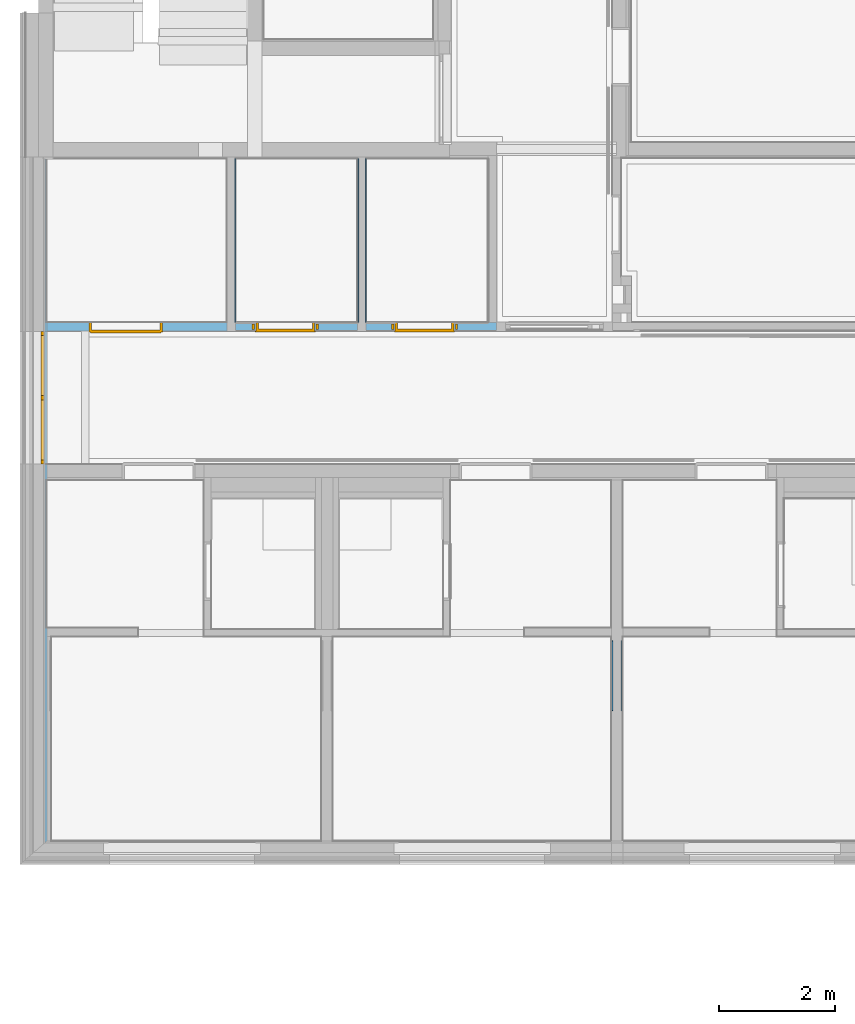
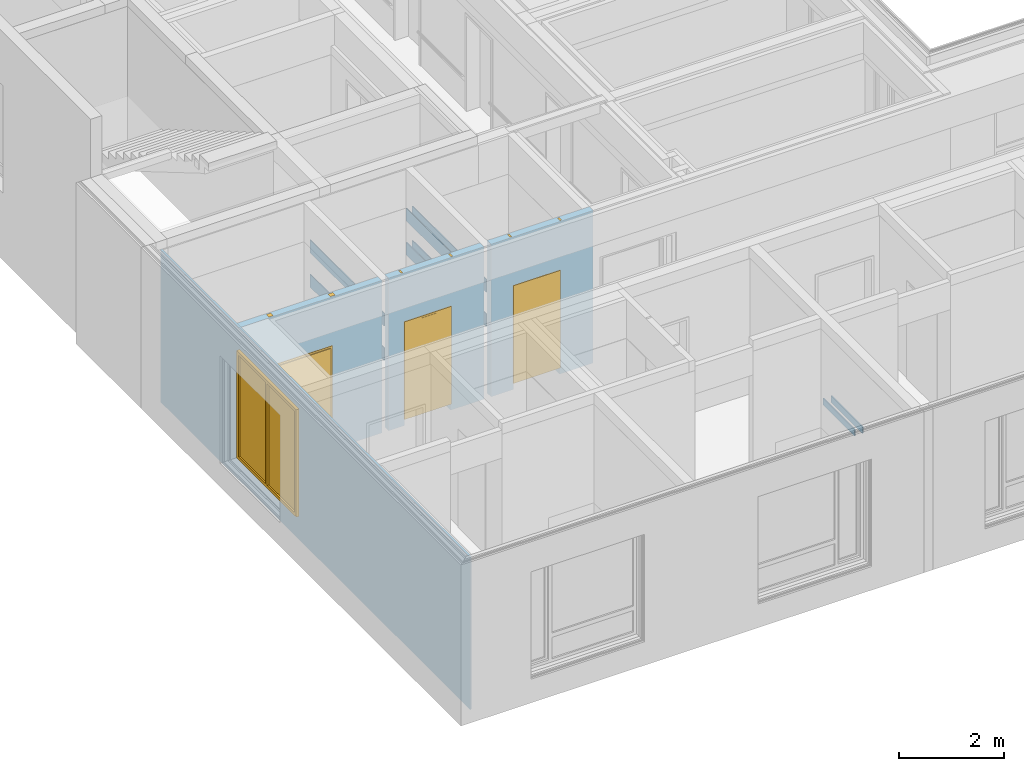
# One storey, part 60 of 222: 8 walls, 3 doors, 1 window, 4 openings, plus 3 elements that do not belong to this part.
"""IFC4 building model written with IfcOpenShell, lengths in metres."""

from ifc_helpers import new_model, entity, si_unit, converted_unit, derived_unit, frame, frame_2d, origin, origin_with_axes, place, context, subcontext, project, spatial, polyline, rectangle, outline, extrude, closed_shell, open_shell, faceted_brep, surface_model, source, transform, mapped, material, type_object, element, fill, save


model = new_model("IFC4")

# Units and contexts
model_context = context("Model", 3, precision=1e-05, world=origin())
body_context = subcontext(model_context, "Body", "Model", "MODEL_VIEW")
ifc_project = project(units=[si_unit("LENGTHUNIT", "METRE"), si_unit("AREAUNIT", "SQUARE_METRE"), si_unit("VOLUMEUNIT", "CUBIC_METRE"), si_unit("MASSUNIT", "GRAM", prefix="KILO"), converted_unit("PLANEANGLEUNIT", "DEGREE", entity("IfcPlaneAngleMeasure", 0.0174532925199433), si_unit("PLANEANGLEUNIT", "RADIAN"), dimensions=[0, 0, 0, 0, 0, 0, 0]), derived_unit("THERMALTRANSMITTANCEUNIT", [(si_unit("POWERUNIT", "WATT"), 1), (si_unit("THERMODYNAMICTEMPERATUREUNIT", "KELVIN"), -1), (si_unit("LENGTHUNIT", "METRE"), -2)]), derived_unit("VOLUMETRICFLOWRATEUNIT", [(si_unit("LENGTHUNIT", "METRE"), 3), (converted_unit("TIMEUNIT", "hour", entity("IfcTimeMeasure", 3600.0), si_unit("TIMEUNIT", "SECOND"), dimensions=[0, 0, 1, 0, 0, 0, 0]), -1), (si_unit("LENGTHUNIT", "METRE"), -1)])], contexts=[model_context])

# Site, building, storey
site_placement = place(None, origin())
site = spatial("IfcSite", under=ifc_project, at=site_placement, Name="Psychiatrie Neubau Wunstorf", CompositionType="ELEMENT")
building_placement = place(site_placement, origin())
building = spatial("IfcBuilding", under=site, at=building_placement, Name="Neubau H2 Stationsgebäude", CompositionType="ELEMENT")
storey_placement = place(building_placement, frame((0.0, 0.0, 3.6)))
storey = spatial("IfcBuildingStorey", under=building, at=storey_placement, Name="H2 Ebene +1", CompositionType="ELEMENT", Elevation=3.6)

# Wall, opening, window
ifc_material_1 = material(Name="WA-LB")
wall_1_placement = place(storey_placement, frame((0.169999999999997, -2.16399999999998, 0.0), z_axis=(0.0, 0.0, 1.0), x_axis=(1.9045848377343e-16, 1.0, 0.0)))
wall_1 = element("IfcWall", 1, at=wall_1_placement, inside=storey, material=ifc_material_1, Name="2x Gipsfaserplatte", context=body_context, shape_type="SweptSolid", body=[
    extrude(outline(polyline([(0.0313246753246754, -0.036), (11.8203245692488, -0.036), (11.8203245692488, 0.0), (0.0, 0.0), (0.0313246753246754, -0.036)])), frame((-0.0313246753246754, 0.036, 0.0), z_axis=(0.0, 0.0, 1.0), x_axis=(1.0, 0.0, 0.0)), (0.0, 0.0, 1.0), 3.55),
])
opening_1_placement = place(wall_1_placement, frame((8.78187476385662, 0.036, 0.55), z_axis=(0.0, -1.0, 0.0), x_axis=(0.0, 0.0, 1.0)))
opening_1 = element("IfcOpeningElement", 2, at=opening_1_placement, cuts=wall_1, Name="Fensteröffnung", ObjectType="Opening", context=body_context, shape_type="SweptSolid", body=[
    extrude(outline(polyline([(2.5, 2.28), (2.5, 0.0), (0.0, 0.0), (0.0, 2.28), (2.5, 2.28)])), origin_with_axes(), (0.0, 0.0, 1.0), 0.036),
])
shared_shape_1 = source(origin_with_axes(), body_context, "Body", "SurfaceModel", [
    surface_model("IfcShellBasedSurfaceModel", [(0.0, 0.0, 2.5), (0.0700000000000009, 0.0, 2.5), (0.0700000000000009, 0.0, 0.0), (0.0, 0.0, 0.0), (0.0, 0.0700000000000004, 0.0), (0.0700000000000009, 0.0700000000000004, 0.0), (0.0700000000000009, 0.0700000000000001, 2.5), (0.0, 0.0700000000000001, 2.5)], [closed_shell([[[0, 1, 2, 3]], [[4, 5, 6, 7]], [[3, 4, 7, 0]], [[2, 5, 4, 3]], [[1, 6, 5, 2]], [[0, 7, 6, 1]]], orient=[[False], [False], [False], [False], [False], [False]])]),
    surface_model("IfcShellBasedSurfaceModel", [(2.21, 0.0, 2.5), (2.28, 0.0, 2.5), (2.28, 0.0, 0.0), (2.21, 0.0, 0.0), (2.21, 0.0700000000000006, 0.0), (2.28, 0.0700000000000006, 0.0), (2.28, 0.0700000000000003, 2.5), (2.21, 0.0700000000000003, 2.5)], [closed_shell([[[0, 1, 2, 3]], [[4, 5, 6, 7]], [[3, 4, 7, 0]], [[2, 5, 4, 3]], [[1, 6, 5, 2]], [[0, 7, 6, 1]]], orient=[[False], [False], [False], [False], [False], [False]])]),
    surface_model("IfcShellBasedSurfaceModel", [(0.0700000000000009, 0.0, 0.07), (2.21, 0.0, 0.07), (2.21, 0.0, 0.0), (0.0700000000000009, 0.0, 0.0), (0.0700000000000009, 0.0700000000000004, 0.0), (2.21, 0.0700000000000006, 0.0), (2.21, 0.0700000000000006, 0.07), (0.0700000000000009, 0.0700000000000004, 0.07)], [closed_shell([[[0, 1, 2, 3]], [[4, 5, 6, 7]], [[3, 4, 7, 0]], [[2, 5, 4, 3]], [[1, 6, 5, 2]], [[0, 7, 6, 1]]], orient=[[False], [False], [False], [False], [False], [False]])]),
    surface_model("IfcShellBasedSurfaceModel", [(0.0700000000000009, 0.0, 2.5), (2.21, 0.0, 2.5), (2.21, 0.0, 2.43), (0.0700000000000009, 0.0, 2.43), (0.0700000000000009, 0.0700000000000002, 2.43), (2.21, 0.0700000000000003, 2.43), (2.21, 0.0700000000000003, 2.5), (0.0700000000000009, 0.0700000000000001, 2.5)], [closed_shell([[[0, 1, 2, 3]], [[4, 5, 6, 7]], [[3, 4, 7, 0]], [[2, 5, 4, 3]], [[1, 6, 5, 2]], [[0, 7, 6, 1]]], orient=[[False], [False], [False], [False], [False], [False]])]),
    surface_model("IfcShellBasedSurfaceModel", [(1.105, 0.0, 2.43), (1.175, 0.0, 2.43), (1.175, 0.0, 0.07), (1.105, 0.0, 0.07), (1.105, 0.0700000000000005, 0.07), (1.175, 0.0700000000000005, 0.07), (1.175, 0.0700000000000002, 2.43), (1.105, 0.0700000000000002, 2.43)], [closed_shell([[[0, 1, 2, 3]], [[4, 5, 6, 7]], [[3, 4, 7, 0]], [[2, 5, 4, 3]], [[1, 6, 5, 2]], [[0, 7, 6, 1]]], orient=[[False], [False], [False], [False], [False], [False]])]),
    surface_model("IfcShellBasedSurfaceModel", [(0.0700000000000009, 0.0350000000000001, 0.07), (0.0700000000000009, 0.0349999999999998, 2.43), (1.105, 0.0349999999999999, 2.43), (1.105, 0.0350000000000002, 0.07)], [open_shell([[[0, 1, 2, 3]]], orient=[[False]])]),
    surface_model("IfcShellBasedSurfaceModel", [(1.175, 0.0350000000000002, 0.07), (1.175, 0.0349999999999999, 2.43), (2.21, 0.035, 2.43), (2.21, 0.0350000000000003, 0.07)], [open_shell([[[0, 1, 2, 3]]], orient=[[False]])]),
])
window_placement = place(opening_1_placement, frame((0.0, 0.0, -0.0659999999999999), z_axis=(1.0, 0.0, 0.0), x_axis=(0.0, 1.0, -8.99210872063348e-18)))
window = element("IfcWindow", 3, at=window_placement, inside=storey, Name="Fenster", OverallHeight=2.5, OverallWidth=2.28, PartitioningType="USERDEFINED", PredefinedType="WINDOW", context=body_context, shape_type="MappedRepresentation", body=[
    mapped(shared_shape_1, transform((0.0, 0.0, 0.0), x_axis=(1.0, 0.0, 0.0), y_axis=(0.0, 1.0, 0.0), z_axis=(0.0, 0.0, 1.0), scale=1.0)),
])
fill(opening_1, window)

# Wall, opening, door
ifc_material_2 = material(Name="WI-LB")
wall_2_placement = place(storey_placement, frame((3.275, 6.77499989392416, 0.0), z_axis=(0.0, 0.0, 1.0), x_axis=(-1.0, 0.0, 0.0)))
wall_2 = element("IfcWall", 4, at=wall_2_placement, inside=storey, material=ifc_material_2, context=body_context, shape_type="SweptSolid", body=[
    extrude(rectangle(XDim=3.105, YDim=0.15, at=frame_2d((1.5525, 0.075), x_axis=(1.0, 0.0))), origin_with_axes(), (0.0, 0.0, 1.0), 3.55),
])
opening_2_placement = place(wall_2_placement, frame((1.115, 0.0, 0.0), z_axis=(0.0, 1.0, 0.0), x_axis=(0.0, 0.0, 1.0)))
opening_2 = element("IfcOpeningElement", 5, at=opening_2_placement, cuts=wall_2, Name="Türöffnung", ObjectType="Opening", context=body_context, shape_type="SweptSolid", body=[
    extrude(outline(polyline([(2.41, 1.26), (2.41, 0.0), (0.0, 0.0), (0.0, 1.26), (2.41, 1.26)])), origin_with_axes(), (0.0, 0.0, 1.0), 0.15),
])
ifc_material_3 = material(Name="TI-2F-UZ-D")
door_type_1 = type_object("IfcDoorType", Name="SMT", OperationType="DOUBLE_DOOR_SINGLE_SWING", ParameterTakesPrecedence=False, PredefinedType="DOOR")
shared_shape_2 = source(origin_with_axes(), body_context, "Body", "Brep", [
    faceted_brep([(1.36, 0.025, 0.0), (1.36, 0.125, 0.0), (1.26, 0.125, 0.0), (1.26, 0.025, 0.0), (1.36, 0.125, 3.55), (1.36, 0.025, 3.55), (1.26, 0.025, 3.55), (1.26, 0.125, 3.55)], [[[0, 1, 2, 3]], [[4, 5, 6, 7]], [[1, 0, 5, 4]], [[2, 1, 4, 7]], [[3, 2, 7, 6]], [[0, 3, 6, 5]]], orient=[[False], [False], [False], [False], [False], [False]]),
    faceted_brep([(0.0, 0.025, 0.0), (0.0, 0.125, 0.0), (-0.1, 0.125, 0.0), (-0.1, 0.025, 0.0), (0.0, 0.125, 3.55), (0.0, 0.025, 3.55), (-0.1, 0.025, 3.55), (-0.1, 0.125, 3.55)], [[[0, 1, 2, 3]], [[4, 5, 6, 7]], [[1, 0, 5, 4]], [[2, 1, 4, 7]], [[3, 2, 7, 6]], [[0, 3, 6, 5]]], orient=[[False], [False], [False], [False], [False], [False]]),
    faceted_brep([(1.26, 0.025, 2.41), (1.26, 0.125, 2.41), (0.0, 0.125, 2.41), (0.0, 0.025, 2.41), (1.26, 0.125, 2.51), (1.26, 0.025, 2.51), (0.0, 0.025, 2.51), (0.0, 0.125, 2.51)], [[[0, 1, 2, 3]], [[4, 5, 6, 7]], [[1, 0, 5, 4]], [[2, 1, 4, 7]], [[3, 2, 7, 6]], [[0, 3, 6, 5]]], orient=[[False], [False], [False], [False], [False], [False]]),
])
shared_shape_3 = source(origin_with_axes(), body_context, "Body", "Brep", [
    faceted_brep([(1.26, -0.015, 2.41), (1.26, -0.015, 0.15), (1.22, -0.015, 0.15), (1.22, -0.015, 2.41), (1.26, 0.165, 0.15), (1.26, 0.165, 2.41), (1.22, 0.165, 2.41), (1.22, 0.165, 0.15)], [[[0, 1, 2, 3]], [[4, 5, 6, 7]], [[1, 0, 5, 4]], [[2, 1, 4, 7]], [[3, 2, 7, 6]], [[0, 3, 6, 5]]], orient=[[False], [False], [False], [False], [False], [False]]),
    faceted_brep([(1.26, -0.015, 2.425), (1.275, -0.015, 2.425), (1.275, -0.015, 0.15), (1.26, -0.015, 0.15), (1.26, 0.0, 0.15), (1.275, 0.0, 0.15), (1.275, 0.0, 2.425), (1.26, 0.0, 2.425)], [[[0, 1, 2, 3]], [[4, 5, 6, 7]], [[3, 4, 7, 0]], [[2, 5, 4, 3]], [[1, 6, 5, 2]], [[0, 7, 6, 1]]], orient=[[False], [False], [False], [False], [False], [False]]),
    faceted_brep([(1.26, 0.15, 2.425), (1.275, 0.15, 2.425), (1.275, 0.15, 0.15), (1.26, 0.15, 0.15), (1.26, 0.165, 0.15), (1.275, 0.165, 0.15), (1.275, 0.165, 2.425), (1.26, 0.165, 2.425)], [[[0, 1, 2, 3]], [[4, 5, 6, 7]], [[3, 4, 7, 0]], [[2, 5, 4, 3]], [[1, 6, 5, 2]], [[0, 7, 6, 1]]], orient=[[False], [False], [False], [False], [False], [False]]),
    faceted_brep([(0.04, -0.015, 2.41), (0.04, -0.015, 0.15), (0.0, -0.015, 0.15), (0.0, -0.015, 2.41), (0.04, 0.165, 0.15), (0.04, 0.165, 2.41), (0.0, 0.165, 2.41), (0.0, 0.165, 0.15)], [[[0, 1, 2, 3]], [[4, 5, 6, 7]], [[1, 0, 5, 4]], [[2, 1, 4, 7]], [[3, 2, 7, 6]], [[0, 3, 6, 5]]], orient=[[False], [False], [False], [False], [False], [False]]),
    faceted_brep([(0.0, -0.015, 2.425), (0.0, -0.015, 0.15), (-0.015, -0.015, 0.15), (-0.015, -0.015, 2.425), (0.0, 0.0, 0.15), (0.0, 0.0, 2.425), (-0.015, 0.0, 2.425), (-0.015, 0.0, 0.15)], [[[0, 1, 2, 3]], [[4, 5, 6, 7]], [[1, 0, 5, 4]], [[2, 1, 4, 7]], [[3, 2, 7, 6]], [[0, 3, 6, 5]]], orient=[[False], [False], [False], [False], [False], [False]]),
    faceted_brep([(0.0, 0.15, 2.425), (0.0, 0.15, 0.15), (-0.015, 0.15, 0.15), (-0.015, 0.15, 2.425), (0.0, 0.165, 0.15), (0.0, 0.165, 2.425), (-0.015, 0.165, 2.425), (-0.015, 0.165, 0.15)], [[[0, 1, 2, 3]], [[4, 5, 6, 7]], [[1, 0, 5, 4]], [[2, 1, 4, 7]], [[3, 2, 7, 6]], [[0, 3, 6, 5]]], orient=[[False], [False], [False], [False], [False], [False]]),
    faceted_brep([(1.22, -0.015, 2.41), (1.22, -0.015, 2.37), (0.04, -0.015, 2.37), (0.04, -0.015, 2.41), (1.22, 0.165, 2.37), (1.22, 0.165, 2.41), (0.04, 0.165, 2.41), (0.04, 0.165, 2.37)], [[[0, 1, 2, 3]], [[4, 5, 6, 7]], [[1, 0, 5, 4]], [[2, 1, 4, 7]], [[3, 2, 7, 6]], [[0, 3, 6, 5]]], orient=[[False], [False], [False], [False], [False], [False]]),
    faceted_brep([(1.26, -0.015, 2.425), (1.26, -0.015, 2.41), (0.0, -0.015, 2.41), (0.0, -0.015, 2.425), (1.26, 0.0, 2.41), (1.26, 0.0, 2.425), (0.0, 0.0, 2.425), (0.0, 0.0, 2.41)], [[[0, 1, 2, 3]], [[4, 5, 6, 7]], [[1, 0, 5, 4]], [[2, 1, 4, 7]], [[3, 2, 7, 6]], [[0, 3, 6, 5]]], orient=[[False], [False], [False], [False], [False], [False]]),
    faceted_brep([(1.26, 0.15, 2.425), (1.26, 0.15, 2.41), (0.0, 0.15, 2.41), (0.0, 0.15, 2.425), (1.26, 0.165, 2.41), (1.26, 0.165, 2.425), (0.0, 0.165, 2.425), (0.0, 0.165, 2.41)], [[[0, 1, 2, 3]], [[4, 5, 6, 7]], [[1, 0, 5, 4]], [[2, 1, 4, 7]], [[3, 2, 7, 6]], [[0, 3, 6, 5]]], orient=[[False], [False], [False], [False], [False], [False]]),
    faceted_brep([(1.235, 0.13, 2.385), (1.235, 0.13, 0.15), (0.335, 0.13, 0.15), (0.335, 0.13, 2.385), (1.235, 0.18, 0.15), (1.235, 0.18, 2.385), (0.335, 0.18, 2.385), (0.335, 0.18, 0.15)], [[[0, 1, 2, 3]], [[4, 5, 6, 7]], [[1, 0, 5, 4]], [[2, 1, 4, 7]], [[3, 2, 7, 6]], [[0, 3, 6, 5]]], orient=[[False], [False], [False], [False], [False], [False]]),
    faceted_brep([(0.334, 0.13, 2.385), (0.334, 0.13, 0.15), (0.025, 0.13, 0.15), (0.025, 0.13, 2.385), (0.334, 0.18, 0.15), (0.334, 0.18, 2.385), (0.025, 0.18, 2.385), (0.025, 0.18, 0.15)], [[[0, 1, 2, 3]], [[4, 5, 6, 7]], [[1, 0, 5, 4]], [[2, 1, 4, 7]], [[3, 2, 7, 6]], [[0, 3, 6, 5]]], orient=[[False], [False], [False], [False], [False], [False]]),
])
door_1_placement = place(opening_2_placement, frame((0.0, 0.0, 0.0), z_axis=(1.0, 0.0, 0.0), x_axis=(0.0, 1.0, 0.0)))
door_1 = element("IfcDoor", 6, at=door_1_placement, inside=storey, type_object=door_type_1, material=ifc_material_3, Name="SMT", OverallHeight=2.41, OverallWidth=1.26, context=body_context, shape_type="MappedRepresentation", body=[
    mapped(shared_shape_2, transform((0.0, 0.0, 0.0), x_axis=(1.0, 0.0, 0.0), y_axis=(0.0, 1.0, 0.0), z_axis=(0.0, 0.0, 1.0), scale=1.0)),
    mapped(shared_shape_3, transform((0.0, 0.0, 0.0), x_axis=(1.0, 0.0, 0.0), y_axis=(0.0, 1.0, 0.0), z_axis=(0.0, 0.0, 1.0), scale=1.0)),
])
fill(opening_2, door_1)

# Wall, openings, doors
ifc_material_4 = material(Name="WI-LB")
wall_3_placement = place(storey_placement, frame((7.925, 6.77499989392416, 0.0), z_axis=(0.0, 0.0, 1.0), x_axis=(-1.0, 0.0, 0.0)))
wall_3 = element("IfcWall", 7, at=wall_3_placement, inside=storey, material=ifc_material_4, context=body_context, shape_type="SweptSolid", body=[
    extrude(rectangle(XDim=2.25, YDim=0.15, at=frame_2d((1.125, 0.075), x_axis=(1.0, 0.0))), origin_with_axes(), (0.0, 0.0, 1.0), 3.55),
    extrude(rectangle(XDim=2.1, YDim=0.15, at=frame_2d((1.05, 0.075), x_axis=(1.0, 0.0))), frame((2.4, 0.0, 0.0), z_axis=(0.0, 0.0, 1.0), x_axis=(1.0, 0.0, 0.0)), (0.0, 0.0, 1.0), 3.55),
])
opening_3_placement = place(wall_3_placement, frame((0.74, 0.0, 0.0), z_axis=(0.0, 1.0, 0.0), x_axis=(0.0, 0.0, 1.0)))
opening_3 = element("IfcOpeningElement", 8, at=opening_3_placement, cuts=wall_3, Name="Türöffnung", ObjectType="Opening", context=body_context, shape_type="SweptSolid", body=[
    extrude(outline(polyline([(2.41, 1.01), (2.41, 0.0), (0.0, 0.0), (0.0, 1.01), (2.41, 1.01)])), origin_with_axes(), (0.0, 0.0, 1.0), 0.15),
])
opening_4_placement = place(wall_3_placement, frame((3.14, 0.0, 0.0), z_axis=(0.0, 1.0, 0.0), x_axis=(0.0, 0.0, 1.0)))
opening_4 = element("IfcOpeningElement", 9, at=opening_4_placement, cuts=wall_3, Name="Türöffnung", ObjectType="Opening", context=body_context, shape_type="SweptSolid", body=[
    extrude(outline(polyline([(2.41, 1.01), (2.41, 0.0), (0.0, 0.0), (0.0, 1.01), (2.41, 1.01)])), origin_with_axes(), (0.0, 0.0, 1.0), 0.15),
])
ifc_material_5 = material(Name="TI-1F-UZ-ZK")
door_type_2 = type_object("IfcDoorType", Name="SMT", OperationType="SINGLE_SWING_RIGHT", ParameterTakesPrecedence=False, PredefinedType="DOOR")
shared_shape_4 = source(origin_with_axes(), body_context, "Body", "Brep", [
    faceted_brep([(1.0749999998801, 0.025, 0.0), (1.0749999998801, 0.125, 0.0), (1.03499999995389, 0.125, 0.0), (1.03499999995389, 0.025, 0.0), (1.0749999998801, 0.125, 3.55), (1.0749999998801, 0.025, 3.55), (1.03499999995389, 0.025, 3.55), (1.03499999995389, 0.125, 3.55)], [[[0, 1, 2, 3]], [[4, 5, 6, 7]], [[1, 0, 5, 4]], [[2, 1, 4, 7]], [[3, 2, 7, 6]], [[0, 3, 6, 5]]], orient=[[False], [False], [False], [False], [False], [False]]),
    faceted_brep([(-0.0249999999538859, 0.025, 0.0), (-0.0249999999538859, 0.125, 0.0), (-0.064999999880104, 0.125, 0.0), (-0.064999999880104, 0.025, 0.0), (-0.0249999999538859, 0.125, 3.55), (-0.0249999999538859, 0.025, 3.55), (-0.064999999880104, 0.025, 3.55), (-0.064999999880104, 0.125, 3.55)], [[[0, 1, 2, 3]], [[4, 5, 6, 7]], [[1, 0, 5, 4]], [[2, 1, 4, 7]], [[3, 2, 7, 6]], [[0, 3, 6, 5]]], orient=[[False], [False], [False], [False], [False], [False]]),
    faceted_brep([(1.03499999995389, 0.025, 2.435), (1.03499999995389, 0.125, 2.435), (-0.0249999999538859, 0.125, 2.435), (-0.0249999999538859, 0.025, 2.435), (1.03499999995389, 0.125, 2.475), (1.03499999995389, 0.025, 2.475), (-0.0249999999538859, 0.025, 2.475), (-0.0249999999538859, 0.125, 2.475)], [[[0, 1, 2, 3]], [[4, 5, 6, 7]], [[1, 0, 5, 4]], [[2, 1, 4, 7]], [[3, 2, 7, 6]], [[0, 3, 6, 5]]], orient=[[False], [False], [False], [False], [False], [False]]),
])
shared_shape_5 = source(origin_with_axes(), body_context, "Body", "Brep", [
    faceted_brep([(1.01, -0.015, 2.41), (1.01, -0.015, 0.15), (0.97, -0.015, 0.15), (0.97, -0.015, 2.41), (1.01, 0.165, 0.15), (1.01, 0.165, 2.41), (0.97, 0.165, 2.41), (0.97, 0.165, 0.15)], [[[0, 1, 2, 3]], [[4, 5, 6, 7]], [[1, 0, 5, 4]], [[2, 1, 4, 7]], [[3, 2, 7, 6]], [[0, 3, 6, 5]]], orient=[[False], [False], [False], [False], [False], [False]]),
    faceted_brep([(1.01, -0.015, 2.425), (1.025, -0.015, 2.425), (1.025, -0.015, 0.15), (1.01, -0.015, 0.15), (1.01, 0.0, 0.15), (1.025, 0.0, 0.15), (1.025, 0.0, 2.425), (1.01, 0.0, 2.425)], [[[0, 1, 2, 3]], [[4, 5, 6, 7]], [[3, 4, 7, 0]], [[2, 5, 4, 3]], [[1, 6, 5, 2]], [[0, 7, 6, 1]]], orient=[[False], [False], [False], [False], [False], [False]]),
    faceted_brep([(1.01, 0.15, 2.425), (1.025, 0.15, 2.425), (1.025, 0.15, 0.15), (1.01, 0.15, 0.15), (1.01, 0.165, 0.15), (1.025, 0.165, 0.15), (1.025, 0.165, 2.425), (1.01, 0.165, 2.425)], [[[0, 1, 2, 3]], [[4, 5, 6, 7]], [[3, 4, 7, 0]], [[2, 5, 4, 3]], [[1, 6, 5, 2]], [[0, 7, 6, 1]]], orient=[[False], [False], [False], [False], [False], [False]]),
    faceted_brep([(0.04, -0.015, 2.41), (0.04, -0.015, 0.15), (0.0, -0.015, 0.15), (0.0, -0.015, 2.41), (0.04, 0.165, 0.15), (0.04, 0.165, 2.41), (0.0, 0.165, 2.41), (0.0, 0.165, 0.15)], [[[0, 1, 2, 3]], [[4, 5, 6, 7]], [[1, 0, 5, 4]], [[2, 1, 4, 7]], [[3, 2, 7, 6]], [[0, 3, 6, 5]]], orient=[[False], [False], [False], [False], [False], [False]]),
    faceted_brep([(0.0, -0.015, 2.425), (0.0, -0.015, 0.15), (-0.015, -0.015, 0.15), (-0.015, -0.015, 2.425), (0.0, 0.0, 0.15), (0.0, 0.0, 2.425), (-0.015, 0.0, 2.425), (-0.015, 0.0, 0.15)], [[[0, 1, 2, 3]], [[4, 5, 6, 7]], [[1, 0, 5, 4]], [[2, 1, 4, 7]], [[3, 2, 7, 6]], [[0, 3, 6, 5]]], orient=[[False], [False], [False], [False], [False], [False]]),
    faceted_brep([(0.0, 0.15, 2.425), (0.0, 0.15, 0.15), (-0.015, 0.15, 0.15), (-0.015, 0.15, 2.425), (0.0, 0.165, 0.15), (0.0, 0.165, 2.425), (-0.015, 0.165, 2.425), (-0.015, 0.165, 0.15)], [[[0, 1, 2, 3]], [[4, 5, 6, 7]], [[1, 0, 5, 4]], [[2, 1, 4, 7]], [[3, 2, 7, 6]], [[0, 3, 6, 5]]], orient=[[False], [False], [False], [False], [False], [False]]),
    faceted_brep([(0.97, -0.015, 2.41), (0.97, -0.015, 2.37), (0.04, -0.015, 2.37), (0.04, -0.015, 2.41), (0.97, 0.165, 2.37), (0.97, 0.165, 2.41), (0.04, 0.165, 2.41), (0.04, 0.165, 2.37)], [[[0, 1, 2, 3]], [[4, 5, 6, 7]], [[1, 0, 5, 4]], [[2, 1, 4, 7]], [[3, 2, 7, 6]], [[0, 3, 6, 5]]], orient=[[False], [False], [False], [False], [False], [False]]),
    faceted_brep([(1.01, -0.015, 2.425), (1.01, -0.015, 2.41), (0.0, -0.015, 2.41), (0.0, -0.015, 2.425), (1.01, 0.0, 2.41), (1.01, 0.0, 2.425), (0.0, 0.0, 2.425), (0.0, 0.0, 2.41)], [[[0, 1, 2, 3]], [[4, 5, 6, 7]], [[1, 0, 5, 4]], [[2, 1, 4, 7]], [[3, 2, 7, 6]], [[0, 3, 6, 5]]], orient=[[False], [False], [False], [False], [False], [False]]),
    faceted_brep([(1.01, 0.15, 2.425), (1.01, 0.15, 2.41), (0.0, 0.15, 2.41), (0.0, 0.15, 2.425), (1.01, 0.165, 2.41), (1.01, 0.165, 2.425), (0.0, 0.165, 2.425), (0.0, 0.165, 2.41)], [[[0, 1, 2, 3]], [[4, 5, 6, 7]], [[1, 0, 5, 4]], [[2, 1, 4, 7]], [[3, 2, 7, 6]], [[0, 3, 6, 5]]], orient=[[False], [False], [False], [False], [False], [False]]),
    faceted_brep([(0.985, 0.116, 2.385), (0.985, 0.116, 0.15), (0.025, 0.116, 0.15), (0.025, 0.116, 2.385), (0.985, 0.166, 0.15), (0.985, 0.166, 2.385), (0.025, 0.166, 2.385), (0.025, 0.166, 0.15)], [[[0, 1, 2, 3]], [[4, 5, 6, 7]], [[1, 0, 5, 4]], [[2, 1, 4, 7]], [[3, 2, 7, 6]], [[0, 3, 6, 5]]], orient=[[False], [False], [False], [False], [False], [False]]),
])
door_2_placement = place(opening_3_placement, frame((0.0, 0.0, 0.0), z_axis=(1.0, 0.0, 0.0), x_axis=(0.0, 1.0, 0.0)))
door_2 = element("IfcDoor", 10, at=door_2_placement, inside=storey, type_object=door_type_2, material=ifc_material_5, Name="SMT", OverallHeight=2.41, OverallWidth=1.01, context=body_context, shape_type="MappedRepresentation", body=[
    mapped(shared_shape_4, transform((0.0, 0.0, 0.0), x_axis=(1.0, 0.0, 0.0), y_axis=(0.0, 1.0, 0.0), z_axis=(0.0, 0.0, 1.0), scale=1.0)),
    mapped(shared_shape_5, transform((0.0, 0.0, 0.0), x_axis=(1.0, 0.0, 0.0), y_axis=(0.0, 1.0, 0.0), z_axis=(0.0, 0.0, 1.0), scale=1.0)),
])
fill(opening_3, door_2)
ifc_material_6 = material(Name="TI-1F-UZ-ZK")
door_type_3 = type_object("IfcDoorType", Name="SMT", OperationType="SINGLE_SWING_RIGHT", ParameterTakesPrecedence=False, PredefinedType="DOOR")
shared_shape_6 = source(origin_with_axes(), body_context, "Body", "Brep", [
    faceted_brep([(1.0749999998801, 0.025, 0.0), (1.0749999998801, 0.125, 0.0), (1.03499999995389, 0.125, 0.0), (1.03499999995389, 0.025, 0.0), (1.0749999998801, 0.125, 3.55), (1.0749999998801, 0.025, 3.55), (1.03499999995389, 0.025, 3.55), (1.03499999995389, 0.125, 3.55)], [[[0, 1, 2, 3]], [[4, 5, 6, 7]], [[1, 0, 5, 4]], [[2, 1, 4, 7]], [[3, 2, 7, 6]], [[0, 3, 6, 5]]], orient=[[False], [False], [False], [False], [False], [False]]),
    faceted_brep([(-0.0249999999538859, 0.025, 0.0), (-0.0249999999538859, 0.125, 0.0), (-0.064999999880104, 0.125, 0.0), (-0.064999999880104, 0.025, 0.0), (-0.0249999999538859, 0.125, 3.55), (-0.0249999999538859, 0.025, 3.55), (-0.064999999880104, 0.025, 3.55), (-0.064999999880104, 0.125, 3.55)], [[[0, 1, 2, 3]], [[4, 5, 6, 7]], [[1, 0, 5, 4]], [[2, 1, 4, 7]], [[3, 2, 7, 6]], [[0, 3, 6, 5]]], orient=[[False], [False], [False], [False], [False], [False]]),
    faceted_brep([(1.03499999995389, 0.025, 2.435), (1.03499999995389, 0.125, 2.435), (-0.0249999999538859, 0.125, 2.435), (-0.0249999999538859, 0.025, 2.435), (1.03499999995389, 0.125, 2.475), (1.03499999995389, 0.025, 2.475), (-0.0249999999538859, 0.025, 2.475), (-0.0249999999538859, 0.125, 2.475)], [[[0, 1, 2, 3]], [[4, 5, 6, 7]], [[1, 0, 5, 4]], [[2, 1, 4, 7]], [[3, 2, 7, 6]], [[0, 3, 6, 5]]], orient=[[False], [False], [False], [False], [False], [False]]),
])
shared_shape_7 = source(origin_with_axes(), body_context, "Body", "Brep", [
    faceted_brep([(1.01, -0.015, 2.41), (1.01, -0.015, 0.15), (0.97, -0.015, 0.15), (0.97, -0.015, 2.41), (1.01, 0.165, 0.15), (1.01, 0.165, 2.41), (0.97, 0.165, 2.41), (0.97, 0.165, 0.15)], [[[0, 1, 2, 3]], [[4, 5, 6, 7]], [[1, 0, 5, 4]], [[2, 1, 4, 7]], [[3, 2, 7, 6]], [[0, 3, 6, 5]]], orient=[[False], [False], [False], [False], [False], [False]]),
    faceted_brep([(1.01, -0.015, 2.425), (1.025, -0.015, 2.425), (1.025, -0.015, 0.15), (1.01, -0.015, 0.15), (1.01, 0.0, 0.15), (1.025, 0.0, 0.15), (1.025, 0.0, 2.425), (1.01, 0.0, 2.425)], [[[0, 1, 2, 3]], [[4, 5, 6, 7]], [[3, 4, 7, 0]], [[2, 5, 4, 3]], [[1, 6, 5, 2]], [[0, 7, 6, 1]]], orient=[[False], [False], [False], [False], [False], [False]]),
    faceted_brep([(1.01, 0.15, 2.425), (1.025, 0.15, 2.425), (1.025, 0.15, 0.15), (1.01, 0.15, 0.15), (1.01, 0.165, 0.15), (1.025, 0.165, 0.15), (1.025, 0.165, 2.425), (1.01, 0.165, 2.425)], [[[0, 1, 2, 3]], [[4, 5, 6, 7]], [[3, 4, 7, 0]], [[2, 5, 4, 3]], [[1, 6, 5, 2]], [[0, 7, 6, 1]]], orient=[[False], [False], [False], [False], [False], [False]]),
    faceted_brep([(0.04, -0.015, 2.41), (0.04, -0.015, 0.15), (0.0, -0.015, 0.15), (0.0, -0.015, 2.41), (0.04, 0.165, 0.15), (0.04, 0.165, 2.41), (0.0, 0.165, 2.41), (0.0, 0.165, 0.15)], [[[0, 1, 2, 3]], [[4, 5, 6, 7]], [[1, 0, 5, 4]], [[2, 1, 4, 7]], [[3, 2, 7, 6]], [[0, 3, 6, 5]]], orient=[[False], [False], [False], [False], [False], [False]]),
    faceted_brep([(0.0, -0.015, 2.425), (0.0, -0.015, 0.15), (-0.015, -0.015, 0.15), (-0.015, -0.015, 2.425), (0.0, 0.0, 0.15), (0.0, 0.0, 2.425), (-0.015, 0.0, 2.425), (-0.015, 0.0, 0.15)], [[[0, 1, 2, 3]], [[4, 5, 6, 7]], [[1, 0, 5, 4]], [[2, 1, 4, 7]], [[3, 2, 7, 6]], [[0, 3, 6, 5]]], orient=[[False], [False], [False], [False], [False], [False]]),
    faceted_brep([(0.0, 0.15, 2.425), (0.0, 0.15, 0.15), (-0.015, 0.15, 0.15), (-0.015, 0.15, 2.425), (0.0, 0.165, 0.15), (0.0, 0.165, 2.425), (-0.015, 0.165, 2.425), (-0.015, 0.165, 0.15)], [[[0, 1, 2, 3]], [[4, 5, 6, 7]], [[1, 0, 5, 4]], [[2, 1, 4, 7]], [[3, 2, 7, 6]], [[0, 3, 6, 5]]], orient=[[False], [False], [False], [False], [False], [False]]),
    faceted_brep([(0.97, -0.015, 2.41), (0.97, -0.015, 2.37), (0.04, -0.015, 2.37), (0.04, -0.015, 2.41), (0.97, 0.165, 2.37), (0.97, 0.165, 2.41), (0.04, 0.165, 2.41), (0.04, 0.165, 2.37)], [[[0, 1, 2, 3]], [[4, 5, 6, 7]], [[1, 0, 5, 4]], [[2, 1, 4, 7]], [[3, 2, 7, 6]], [[0, 3, 6, 5]]], orient=[[False], [False], [False], [False], [False], [False]]),
    faceted_brep([(1.01, -0.015, 2.425), (1.01, -0.015, 2.41), (0.0, -0.015, 2.41), (0.0, -0.015, 2.425), (1.01, 0.0, 2.41), (1.01, 0.0, 2.425), (0.0, 0.0, 2.425), (0.0, 0.0, 2.41)], [[[0, 1, 2, 3]], [[4, 5, 6, 7]], [[1, 0, 5, 4]], [[2, 1, 4, 7]], [[3, 2, 7, 6]], [[0, 3, 6, 5]]], orient=[[False], [False], [False], [False], [False], [False]]),
    faceted_brep([(1.01, 0.15, 2.425), (1.01, 0.15, 2.41), (0.0, 0.15, 2.41), (0.0, 0.15, 2.425), (1.01, 0.165, 2.41), (1.01, 0.165, 2.425), (0.0, 0.165, 2.425), (0.0, 0.165, 2.41)], [[[0, 1, 2, 3]], [[4, 5, 6, 7]], [[1, 0, 5, 4]], [[2, 1, 4, 7]], [[3, 2, 7, 6]], [[0, 3, 6, 5]]], orient=[[False], [False], [False], [False], [False], [False]]),
    faceted_brep([(0.985, 0.116, 2.385), (0.985, 0.116, 0.15), (0.025, 0.116, 0.15), (0.025, 0.116, 2.385), (0.985, 0.166, 0.15), (0.985, 0.166, 2.385), (0.025, 0.166, 2.385), (0.025, 0.166, 0.15)], [[[0, 1, 2, 3]], [[4, 5, 6, 7]], [[1, 0, 5, 4]], [[2, 1, 4, 7]], [[3, 2, 7, 6]], [[0, 3, 6, 5]]], orient=[[False], [False], [False], [False], [False], [False]]),
])
door_3_placement = place(opening_4_placement, frame((0.0, 0.0, 0.0), z_axis=(1.0, 0.0, 0.0), x_axis=(0.0, 1.0, 0.0)))
door_3 = element("IfcDoor", 11, at=door_3_placement, inside=storey, type_object=door_type_3, material=ifc_material_6, Name="SMT", OverallHeight=2.41, OverallWidth=1.01, context=body_context, shape_type="MappedRepresentation", body=[
    mapped(shared_shape_6, transform((0.0, 0.0, 0.0), x_axis=(1.0, 0.0, 0.0), y_axis=(0.0, 1.0, 0.0), z_axis=(0.0, 0.0, 1.0), scale=1.0)),
    mapped(shared_shape_7, transform((0.0, 0.0, 0.0), x_axis=(1.0, 0.0, 0.0), y_axis=(0.0, 1.0, 0.0), z_axis=(0.0, 0.0, 1.0), scale=1.0)),
])
fill(opening_4, door_3)

# Walls
for number, where, name in (
    (12, (9.89999999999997, 0.0854496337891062, 1.575), "WV 1.1"),
    (13, (10.075, 0.0854496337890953, 1.575), "WV 1.1"),
):
    element("IfcWall", number, at=place(storey_placement, frame(where)), inside=storey, Name=name, context=body_context, shape_type="Brep", body=[
        faceted_brep([(0.025, 1.2, 0.0), (0.0, 1.2, 0.0), (0.0, 0.0, 0.0), (0.025, 0.0, 0.0), (0.0, 1.2, 0.15), (0.025, 1.2, 0.15), (0.025, 0.0, 0.15), (0.0, 0.0, 0.15)], [[[0, 1, 2, 3]], [[4, 5, 6, 7]], [[1, 0, 5, 4]], [[2, 1, 4, 7]], [[3, 2, 7, 6]], [[0, 3, 6, 5]]], orient=[[False], [False], [False], [False], [False], [False]]),
    ])
for number, where, name in (
    (14, (3.407, 6.77500025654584, 2.35), "WV 1.1"),
    (15, (3.407, 6.77500025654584, 1.55), "WV 1.1"),
):
    element("IfcWall", number, at=place(storey_placement, frame(where)), inside=storey, Name=name, context=body_context, shape_type="Brep", body=[
        faceted_brep([(0.018, 2.82, 0.0), (0.0, 2.82, 0.0), (0.0, 0.0, 0.0), (0.0180000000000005, 0.0, 0.0), (0.0, 2.82, 0.3), (0.018, 2.82, 0.3), (0.0180000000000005, 0.0, 0.3), (0.0, 0.0, 0.3)], [[[0, 1, 2, 3]], [[4, 5, 6, 7]], [[1, 0, 5, 4]], [[2, 1, 4, 7]], [[3, 2, 7, 6]], [[0, 3, 6, 5]]], orient=[[False], [False], [False], [False], [False], [False]]),
    ])
for number, where, name in (
    (16, (5.657, 6.77500025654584, 2.35), "WV 1.1"),
    (17, (5.657, 6.77500025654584, 1.55), "WV 1.1"),
    (18, (5.525, 6.77500025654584, 2.35), "WV 1.1"),
    (19, (5.525, 6.77500025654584, 1.55), "WV 1.1"),
):
    element("IfcWall", number, at=place(storey_placement, frame(where)), inside=storey, Name=name, context=body_context, shape_type="Brep", body=[
        faceted_brep([(0.018, 2.82, 0.0), (0.0, 2.82, 0.0), (0.0, 0.0, 0.0), (0.018, 0.0, 0.0), (0.0, 2.82, 0.3), (0.018, 2.82, 0.3), (0.018, 0.0, 0.3), (0.0, 0.0, 0.3)], [[[0, 1, 2, 3]], [[4, 5, 6, 7]], [[1, 0, 5, 4]], [[2, 1, 4, 7]], [[3, 2, 7, 6]], [[0, 3, 6, 5]]], orient=[[False], [False], [False], [False], [False], [False]]),
    ])

save(model, "model.ifc")
